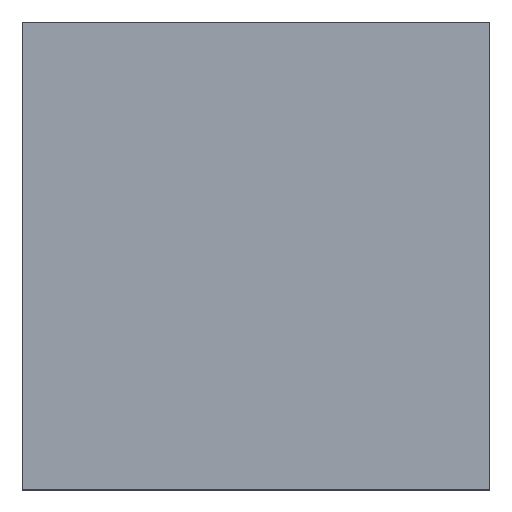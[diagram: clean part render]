
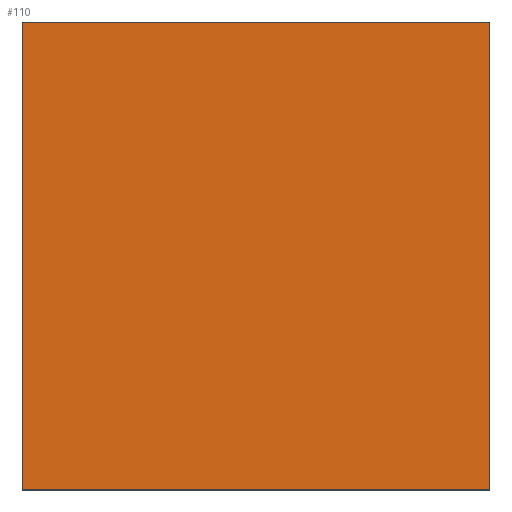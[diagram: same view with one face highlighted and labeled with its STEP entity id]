
A CAD part, top view. The second image highlights one B-rep face of the part: STEP entity #110.
In plain terms, the highlighted planar face has unit normal (0, 0, 1).
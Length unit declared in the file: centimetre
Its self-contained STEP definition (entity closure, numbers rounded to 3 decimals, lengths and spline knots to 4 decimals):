
#1 = AXIS2_PLACEMENT_3D ( 'NONE', #205, #10, #291 ) ;
#10 = DIRECTION ( 'NONE',  ( 0., 0., 1. ) ) ;
#11 = VERTEX_POINT ( 'NONE', #240 ) ;
#12 = PLANE ( 'NONE',  #1 ) ;
#16 = VERTEX_POINT ( 'NONE', #265 ) ;
#44 = VECTOR ( 'NONE', #157, 100. ) ;
#66 = ORIENTED_EDGE ( 'NONE', *, *, #136, .T. ) ;
#72 = CARTESIAN_POINT ( 'NONE',  ( 0., 1000., 1000. ) ) ;
#88 = VECTOR ( 'NONE', #355, 100. ) ;
#110 = ADVANCED_FACE ( 'NONE', ( #112 ), #12, .T. ) ;
#112 = FACE_OUTER_BOUND ( 'NONE', #183, .T. ) ;
#127 = VERTEX_POINT ( 'NONE', #324 ) ;
#136 = EDGE_CURVE ( 'NONE', #16, #182, #288, .T. ) ;
#137 = VECTOR ( 'NONE', #228, 100. ) ;
#157 = DIRECTION ( 'NONE',  ( 0., -1., 0. ) ) ;
#164 = LINE ( 'NONE', #321, #137 ) ;
#182 = VERTEX_POINT ( 'NONE', #185 ) ;
#183 = EDGE_LOOP ( 'NONE', ( #328, #66, #360, #298 ) ) ;
#185 = CARTESIAN_POINT ( 'NONE',  ( 1000., 0., 1000. ) ) ;
#193 = LINE ( 'NONE', #72, #44 ) ;
#205 = CARTESIAN_POINT ( 'NONE',  ( 0., 0., 1000. ) ) ;
#216 = EDGE_CURVE ( 'NONE', #11, #16, #193, .T. ) ;
#222 = LINE ( 'NONE', #251, #236 ) ;
#228 = DIRECTION ( 'NONE',  ( -1., 0., 0. ) ) ;
#236 = VECTOR ( 'NONE', #358, 100. ) ;
#240 = CARTESIAN_POINT ( 'NONE',  ( 0., 1000., 1000. ) ) ;
#251 = CARTESIAN_POINT ( 'NONE',  ( 1000., 1000., 1000. ) ) ;
#262 = EDGE_CURVE ( 'NONE', #182, #127, #222, .T. ) ;
#265 = CARTESIAN_POINT ( 'NONE',  ( 0., 0., 1000. ) ) ;
#288 = LINE ( 'NONE', #318, #88 ) ;
#291 = DIRECTION ( 'NONE',  ( 1., 0., 0. ) ) ;
#298 = ORIENTED_EDGE ( 'NONE', *, *, #334, .T. ) ;
#318 = CARTESIAN_POINT ( 'NONE',  ( 0., 0., 1000. ) ) ;
#321 = CARTESIAN_POINT ( 'NONE',  ( 0., 1000., 1000. ) ) ;
#324 = CARTESIAN_POINT ( 'NONE',  ( 1000., 1000., 1000. ) ) ;
#328 = ORIENTED_EDGE ( 'NONE', *, *, #216, .T. ) ;
#334 = EDGE_CURVE ( 'NONE', #127, #11, #164, .T. ) ;
#355 = DIRECTION ( 'NONE',  ( 1., 0., 0. ) ) ;
#358 = DIRECTION ( 'NONE',  ( 0., 1., 0. ) ) ;
#360 = ORIENTED_EDGE ( 'NONE', *, *, #262, .T. ) ;
